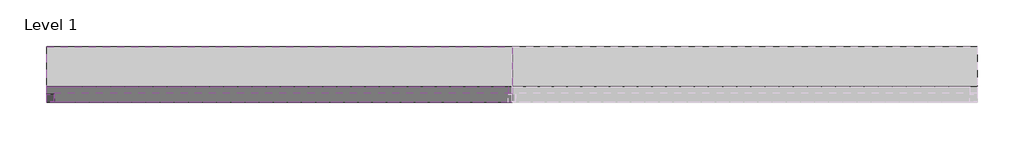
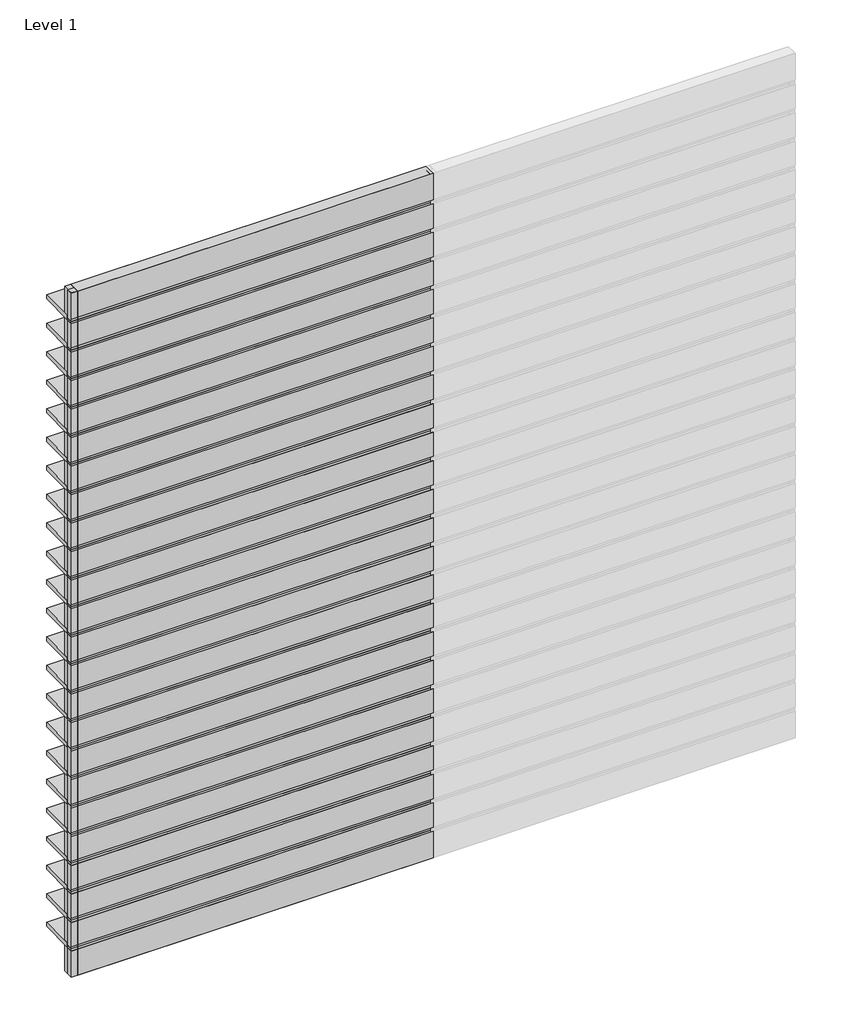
# One storey, part 1 of 2: 59 members, 48 plates.
"""IFC4 building model written with IfcOpenShell, lengths in millimetres."""

from ifc_helpers import new_model, si_unit, origin, place, context, project, spatial, transform, mapped, element, save
from components import rectangular_mullion_3524faa0, rectangular_mullion_eeaea343, empty_system_panel_empty_0ca92e57, empty_system_panel_empty_21c48a04, empty_system_panel_empty_839ed214

model = new_model("IFC4")

# Units and contexts
model_context = context("Model", 3, world=origin())
ifc_project = project(units=[si_unit("LENGTHUNIT", "METRE", prefix="MILLI")], contexts=[model_context])

# Site, building, storey
site = spatial("IfcSite", under=ifc_project)
building = spatial("IfcBuilding", under=site)
storey = spatial("IfcBuildingStorey", under=building, Name="Level 1", Elevation=0.0)

# Members
placement = place(None, origin())
rectangular_mullion_shape = rectangular_mullion_3524faa0(model_context)
element("IfcMember", 1, ObjectType="Rectangular Mullion : RSen_21_CWM_blade - cubic 300 - 0°_gen_duco projects", at=placement, inside=storey, context=model_context, shape_type="MappedRepresentation", body=[
    mapped(rectangular_mullion_shape, transform((3000.0, 3000.0, 250.0), x_axis=(0.0, 0.0, 1.0), y_axis=(0.0, 1.0, 0.0), z_axis=(-1.0, 0.0, 0.0))),
])
element("IfcMember", 2, ObjectType="Rectangular Mullion : RSen_21_CWM_blade - cubic 300 - 0°_gen_duco projects", at=placement, inside=storey, context=model_context, shape_type="MappedRepresentation", body=[
    mapped(rectangular_mullion_shape, transform((3000.0, 3000.0, 500.0), x_axis=(0.0, 0.0, 1.0), y_axis=(0.0, 1.0, 0.0), z_axis=(-1.0, 0.0, 0.0))),
])
element("IfcMember", 3, ObjectType="Rectangular Mullion : RSen_21_CWM_blade - cubic 300 - 0°_gen_duco projects", at=placement, inside=storey, context=model_context, shape_type="MappedRepresentation", body=[
    mapped(rectangular_mullion_shape, transform((3000.0, 3000.0, 750.0), x_axis=(0.0, 0.0, 1.0), y_axis=(0.0, 1.0, 0.0), z_axis=(-1.0, 0.0, 0.0))),
])
element("IfcMember", 4, ObjectType="Rectangular Mullion : RSen_21_CWM_blade - cubic 300 - 0°_gen_duco projects", at=placement, inside=storey, context=model_context, shape_type="MappedRepresentation", body=[
    mapped(rectangular_mullion_shape, transform((3000.0, 3000.0, 1000.0), x_axis=(0.0, 0.0, 1.0), y_axis=(0.0, 1.0, 0.0), z_axis=(-1.0, 0.0, 0.0))),
])
element("IfcMember", 5, ObjectType="Rectangular Mullion : RSen_21_CWM_blade - cubic 300 - 0°_gen_duco projects", at=placement, inside=storey, context=model_context, shape_type="MappedRepresentation", body=[
    mapped(rectangular_mullion_shape, transform((3000.0, 3000.0, 1250.0), x_axis=(0.0, 0.0, 1.0), y_axis=(0.0, 1.0, 0.0), z_axis=(-1.0, 0.0, 0.0))),
])
element("IfcMember", 6, ObjectType="Rectangular Mullion : RSen_21_CWM_blade - cubic 300 - 0°_gen_duco projects", at=placement, inside=storey, context=model_context, shape_type="MappedRepresentation", body=[
    mapped(rectangular_mullion_shape, transform((3000.0, 3000.0, 1500.0), x_axis=(0.0, 0.0, 1.0), y_axis=(0.0, 1.0, 0.0), z_axis=(-1.0, 0.0, 0.0))),
])
element("IfcMember", 7, ObjectType="Rectangular Mullion : RSen_21_CWM_blade - cubic 300 - 0°_gen_duco projects", at=placement, inside=storey, context=model_context, shape_type="MappedRepresentation", body=[
    mapped(rectangular_mullion_shape, transform((3000.0, 3000.0, 1750.0), x_axis=(0.0, 0.0, 1.0), y_axis=(0.0, 1.0, 0.0), z_axis=(-1.0, 0.0, 0.0))),
])
element("IfcMember", 8, ObjectType="Rectangular Mullion : RSen_21_CWM_blade - cubic 300 - 0°_gen_duco projects", at=placement, inside=storey, context=model_context, shape_type="MappedRepresentation", body=[
    mapped(rectangular_mullion_shape, transform((3000.0, 3000.0, 2000.0), x_axis=(0.0, 0.0, 1.0), y_axis=(0.0, 1.0, 0.0), z_axis=(-1.0, 0.0, 0.0))),
])
element("IfcMember", 9, ObjectType="Rectangular Mullion : RSen_21_CWM_blade - cubic 300 - 0°_gen_duco projects", at=placement, inside=storey, context=model_context, shape_type="MappedRepresentation", body=[
    mapped(rectangular_mullion_shape, transform((3000.0, 3000.0, 2250.0), x_axis=(0.0, 0.0, 1.0), y_axis=(0.0, 1.0, 0.0), z_axis=(-1.0, 0.0, 0.0))),
])
element("IfcMember", 10, ObjectType="Rectangular Mullion : RSen_21_CWM_blade - cubic 300 - 0°_gen_duco projects", at=placement, inside=storey, context=model_context, shape_type="MappedRepresentation", body=[
    mapped(rectangular_mullion_shape, transform((3000.0, 3000.0, 2500.0), x_axis=(0.0, 0.0, 1.0), y_axis=(0.0, 1.0, 0.0), z_axis=(-1.0, 0.0, 0.0))),
])
element("IfcMember", 11, ObjectType="Rectangular Mullion : RSen_21_CWM_blade - cubic 300 - 0°_gen_duco projects", at=placement, inside=storey, context=model_context, shape_type="MappedRepresentation", body=[
    mapped(rectangular_mullion_shape, transform((3000.0, 3000.0, 2750.0), x_axis=(0.0, 0.0, 1.0), y_axis=(0.0, 1.0, 0.0), z_axis=(-1.0, 0.0, 0.0))),
])
element("IfcMember", 12, ObjectType="Rectangular Mullion : RSen_21_CWM_blade - cubic 300 - 0°_gen_duco projects", at=placement, inside=storey, context=model_context, shape_type="MappedRepresentation", body=[
    mapped(rectangular_mullion_shape, transform((3000.0, 3000.0, 3000.0), x_axis=(0.0, 0.0, 1.0), y_axis=(0.0, 1.0, 0.0), z_axis=(-1.0, 0.0, 0.0))),
])
element("IfcMember", 13, ObjectType="Rectangular Mullion : RSen_21_CWM_blade - cubic 300 - 0°_gen_duco projects", at=placement, inside=storey, context=model_context, shape_type="MappedRepresentation", body=[
    mapped(rectangular_mullion_shape, transform((0.0, 3000.0, 250.0), x_axis=(0.0, 0.0, 1.0), y_axis=(0.0, 1.0, 0.0), z_axis=(-1.0, 0.0, 0.0))),
])
element("IfcMember", 14, ObjectType="Rectangular Mullion : RSen_21_CWM_blade - cubic 300 - 0°_gen_duco projects", at=placement, inside=storey, context=model_context, shape_type="MappedRepresentation", body=[
    mapped(rectangular_mullion_shape, transform((0.0, 3000.0, 500.0), x_axis=(0.0, 0.0, 1.0), y_axis=(0.0, 1.0, 0.0), z_axis=(-1.0, 0.0, 0.0))),
])
element("IfcMember", 15, ObjectType="Rectangular Mullion : RSen_21_CWM_blade - cubic 300 - 0°_gen_duco projects", at=placement, inside=storey, context=model_context, shape_type="MappedRepresentation", body=[
    mapped(rectangular_mullion_shape, transform((0.0, 3000.0, 750.0), x_axis=(0.0, 0.0, 1.0), y_axis=(0.0, 1.0, 0.0), z_axis=(-1.0, 0.0, 0.0))),
])
element("IfcMember", 16, ObjectType="Rectangular Mullion : RSen_21_CWM_blade - cubic 300 - 0°_gen_duco projects", at=placement, inside=storey, context=model_context, shape_type="MappedRepresentation", body=[
    mapped(rectangular_mullion_shape, transform((0.0, 3000.0, 1000.0), x_axis=(0.0, 0.0, 1.0), y_axis=(0.0, 1.0, 0.0), z_axis=(-1.0, 0.0, 0.0))),
])
element("IfcMember", 17, ObjectType="Rectangular Mullion : RSen_21_CWM_blade - cubic 300 - 0°_gen_duco projects", at=placement, inside=storey, context=model_context, shape_type="MappedRepresentation", body=[
    mapped(rectangular_mullion_shape, transform((0.0, 3000.0, 1250.0), x_axis=(0.0, 0.0, 1.0), y_axis=(0.0, 1.0, 0.0), z_axis=(-1.0, 0.0, 0.0))),
])
element("IfcMember", 18, ObjectType="Rectangular Mullion : RSen_21_CWM_blade - cubic 300 - 0°_gen_duco projects", at=placement, inside=storey, context=model_context, shape_type="MappedRepresentation", body=[
    mapped(rectangular_mullion_shape, transform((0.0, 3000.0, 1500.0), x_axis=(0.0, 0.0, 1.0), y_axis=(0.0, 1.0, 0.0), z_axis=(-1.0, 0.0, 0.0))),
])
element("IfcMember", 19, ObjectType="Rectangular Mullion : RSen_21_CWM_blade - cubic 300 - 0°_gen_duco projects", at=placement, inside=storey, context=model_context, shape_type="MappedRepresentation", body=[
    mapped(rectangular_mullion_shape, transform((0.0, 3000.0, 1750.0), x_axis=(0.0, 0.0, 1.0), y_axis=(0.0, 1.0, 0.0), z_axis=(-1.0, 0.0, 0.0))),
])
element("IfcMember", 20, ObjectType="Rectangular Mullion : RSen_21_CWM_blade - cubic 300 - 0°_gen_duco projects", at=placement, inside=storey, context=model_context, shape_type="MappedRepresentation", body=[
    mapped(rectangular_mullion_shape, transform((0.0, 3000.0, 2000.0), x_axis=(0.0, 0.0, 1.0), y_axis=(0.0, 1.0, 0.0), z_axis=(-1.0, 0.0, 0.0))),
])
element("IfcMember", 21, ObjectType="Rectangular Mullion : RSen_21_CWM_blade - cubic 300 - 0°_gen_duco projects", at=placement, inside=storey, context=model_context, shape_type="MappedRepresentation", body=[
    mapped(rectangular_mullion_shape, transform((0.0, 3000.0, 2250.0), x_axis=(0.0, 0.0, 1.0), y_axis=(0.0, 1.0, 0.0), z_axis=(-1.0, 0.0, 0.0))),
])
element("IfcMember", 22, ObjectType="Rectangular Mullion : RSen_21_CWM_blade - cubic 300 - 0°_gen_duco projects", at=placement, inside=storey, context=model_context, shape_type="MappedRepresentation", body=[
    mapped(rectangular_mullion_shape, transform((0.0, 3000.0, 2500.0), x_axis=(0.0, 0.0, 1.0), y_axis=(0.0, 1.0, 0.0), z_axis=(-1.0, 0.0, 0.0))),
])
element("IfcMember", 23, ObjectType="Rectangular Mullion : RSen_21_CWM_blade - cubic 300 - 0°_gen_duco projects", at=placement, inside=storey, context=model_context, shape_type="MappedRepresentation", body=[
    mapped(rectangular_mullion_shape, transform((0.0, 3000.0, 2750.0), x_axis=(0.0, 0.0, 1.0), y_axis=(0.0, 1.0, 0.0), z_axis=(-1.0, 0.0, 0.0))),
])
element("IfcMember", 24, ObjectType="Rectangular Mullion : RSen_21_CWM_blade - cubic 300 - 0°_gen_duco projects", at=placement, inside=storey, context=model_context, shape_type="MappedRepresentation", body=[
    mapped(rectangular_mullion_shape, transform((0.0, 3000.0, 3000.0), x_axis=(0.0, 0.0, 1.0), y_axis=(0.0, 1.0, 0.0), z_axis=(-1.0, 0.0, 0.0))),
])
element("IfcMember", 25, ObjectType="Rectangular Mullion : RSen_21_CWM_blade - cubic 300 - 0°_gen_duco projects", at=placement, inside=storey, context=model_context, shape_type="MappedRepresentation", body=[
    mapped(rectangular_mullion_shape, transform((0.0, 3000.0, 3250.0), x_axis=(0.0, 0.0, 1.0), y_axis=(0.0, 1.0, 0.0), z_axis=(-1.0, 0.0, 0.0))),
])
element("IfcMember", 26, ObjectType="Rectangular Mullion : RSen_21_CWM_blade - cubic 300 - 0°_gen_duco projects", at=placement, inside=storey, context=model_context, shape_type="MappedRepresentation", body=[
    mapped(rectangular_mullion_shape, transform((0.0, 3000.0, 3500.0), x_axis=(0.0, 0.0, 1.0), y_axis=(0.0, 1.0, 0.0), z_axis=(-1.0, 0.0, 0.0))),
])
element("IfcMember", 27, ObjectType="Rectangular Mullion : RSen_21_CWM_blade - cubic 300 - 0°_gen_duco projects", at=placement, inside=storey, context=model_context, shape_type="MappedRepresentation", body=[
    mapped(rectangular_mullion_shape, transform((0.0, 3000.0, 3750.0), x_axis=(0.0, 0.0, 1.0), y_axis=(0.0, 1.0, 0.0), z_axis=(-1.0, 0.0, 0.0))),
])
element("IfcMember", 28, ObjectType="Rectangular Mullion : RSen_21_CWM_blade - cubic 300 - 0°_gen_duco projects", at=placement, inside=storey, context=model_context, shape_type="MappedRepresentation", body=[
    mapped(rectangular_mullion_shape, transform((0.0, 3000.0, 4000.0), x_axis=(0.0, 0.0, 1.0), y_axis=(0.0, 1.0, 0.0), z_axis=(-1.0, 0.0, 0.0))),
])
element("IfcMember", 29, ObjectType="Rectangular Mullion : RSen_21_CWM_blade - cubic 300 - 0°_gen_duco projects", at=placement, inside=storey, context=model_context, shape_type="MappedRepresentation", body=[
    mapped(rectangular_mullion_shape, transform((0.0, 3000.0, 4250.0), x_axis=(0.0, 0.0, 1.0), y_axis=(0.0, 1.0, 0.0), z_axis=(-1.0, 0.0, 0.0))),
])
element("IfcMember", 30, ObjectType="Rectangular Mullion : RSen_21_CWM_blade - cubic 300 - 0°_gen_duco projects", at=placement, inside=storey, context=model_context, shape_type="MappedRepresentation", body=[
    mapped(rectangular_mullion_shape, transform((0.0, 3000.0, 4500.0), x_axis=(0.0, 0.0, 1.0), y_axis=(0.0, 1.0, 0.0), z_axis=(-1.0, 0.0, 0.0))),
])
element("IfcMember", 31, ObjectType="Rectangular Mullion : RSen_21_CWM_blade - cubic 300 - 0°_gen_duco projects", at=placement, inside=storey, context=model_context, shape_type="MappedRepresentation", body=[
    mapped(rectangular_mullion_shape, transform((0.0, 3000.0, 4750.0), x_axis=(0.0, 0.0, 1.0), y_axis=(0.0, 1.0, 0.0), z_axis=(-1.0, 0.0, 0.0))),
])
element("IfcMember", 32, ObjectType="Rectangular Mullion : RSen_21_CWM_blade - cubic 300 - 0°_gen_duco projects", at=placement, inside=storey, context=model_context, shape_type="MappedRepresentation", body=[
    mapped(rectangular_mullion_shape, transform((0.0, 3000.0, 5000.0), x_axis=(0.0, 0.0, 1.0), y_axis=(0.0, 1.0, 0.0), z_axis=(-1.0, 0.0, 0.0))),
])
element("IfcMember", 33, ObjectType="Rectangular Mullion : RSen_21_CWM_blade - cubic 300 - 0°_gen_duco projects", at=placement, inside=storey, context=model_context, shape_type="MappedRepresentation", body=[
    mapped(rectangular_mullion_shape, transform((0.0, 3000.0, 5250.0), x_axis=(0.0, 0.0, 1.0), y_axis=(0.0, 1.0, 0.0), z_axis=(-1.0, 0.0, 0.0))),
])
element("IfcMember", 34, ObjectType="Rectangular Mullion : RSen_21_CWM_blade - cubic 300 - 0°_gen_duco projects", at=placement, inside=storey, context=model_context, shape_type="MappedRepresentation", body=[
    mapped(rectangular_mullion_shape, transform((0.0, 3000.0, 5500.0), x_axis=(0.0, 0.0, 1.0), y_axis=(0.0, 1.0, 0.0), z_axis=(-1.0, 0.0, 0.0))),
])
element("IfcMember", 35, ObjectType="Rectangular Mullion : RSen_21_CWM_blade - cubic 300 - 0°_gen_duco projects", at=placement, inside=storey, context=model_context, shape_type="MappedRepresentation", body=[
    mapped(rectangular_mullion_shape, transform((0.0, 3000.0, 5750.0), x_axis=(0.0, 0.0, 1.0), y_axis=(0.0, 1.0, 0.0), z_axis=(-1.0, 0.0, 0.0))),
])
rectangular_mullion_2_shape = rectangular_mullion_eeaea343(model_context)
element("IfcMember", 36, ObjectType="Rectangular Mullion : RSen_21_CWM_support profile 50x50 - left_gen_duco projects", at=placement, inside=storey, context=model_context, shape_type="MappedRepresentation", body=[
    mapped(rectangular_mullion_2_shape, transform((0.0, 3000.0, 0.0), x_axis=(-1.0, 0.0, 0.0), y_axis=(0.0, 1.0, 0.0), z_axis=(0.0, 0.0, -1.0))),
])
element("IfcMember", 37, ObjectType="Rectangular Mullion : RSen_21_CWM_support profile 50x50 - left_gen_duco projects", at=placement, inside=storey, context=model_context, shape_type="MappedRepresentation", body=[
    mapped(rectangular_mullion_2_shape, transform((0.0, 3000.0, 250.0), x_axis=(-1.0, 0.0, 0.0), y_axis=(0.0, 1.0, 0.0), z_axis=(0.0, 0.0, -1.0))),
])
element("IfcMember", 38, ObjectType="Rectangular Mullion : RSen_21_CWM_support profile 50x50 - left_gen_duco projects", at=placement, inside=storey, context=model_context, shape_type="MappedRepresentation", body=[
    mapped(rectangular_mullion_2_shape, transform((0.0, 3000.0, 500.0), x_axis=(-1.0, 0.0, 0.0), y_axis=(0.0, 1.0, 0.0), z_axis=(0.0, 0.0, -1.0))),
])
element("IfcMember", 39, ObjectType="Rectangular Mullion : RSen_21_CWM_support profile 50x50 - left_gen_duco projects", at=placement, inside=storey, context=model_context, shape_type="MappedRepresentation", body=[
    mapped(rectangular_mullion_2_shape, transform((0.0, 3000.0, 750.0), x_axis=(-1.0, 0.0, 0.0), y_axis=(0.0, 1.0, 0.0), z_axis=(0.0, 0.0, -1.0))),
])
element("IfcMember", 40, ObjectType="Rectangular Mullion : RSen_21_CWM_support profile 50x50 - left_gen_duco projects", at=placement, inside=storey, context=model_context, shape_type="MappedRepresentation", body=[
    mapped(rectangular_mullion_2_shape, transform((0.0, 3000.0, 1000.0), x_axis=(-1.0, 0.0, 0.0), y_axis=(0.0, 1.0, 0.0), z_axis=(0.0, 0.0, -1.0))),
])
element("IfcMember", 41, ObjectType="Rectangular Mullion : RSen_21_CWM_support profile 50x50 - left_gen_duco projects", at=placement, inside=storey, context=model_context, shape_type="MappedRepresentation", body=[
    mapped(rectangular_mullion_2_shape, transform((0.0, 3000.0, 1250.0), x_axis=(-1.0, 0.0, 0.0), y_axis=(0.0, 1.0, 0.0), z_axis=(0.0, 0.0, -1.0))),
])
element("IfcMember", 42, ObjectType="Rectangular Mullion : RSen_21_CWM_support profile 50x50 - left_gen_duco projects", at=placement, inside=storey, context=model_context, shape_type="MappedRepresentation", body=[
    mapped(rectangular_mullion_2_shape, transform((0.0, 3000.0, 1500.0), x_axis=(-1.0, 0.0, 0.0), y_axis=(0.0, 1.0, 0.0), z_axis=(0.0, 0.0, -1.0))),
])
element("IfcMember", 43, ObjectType="Rectangular Mullion : RSen_21_CWM_support profile 50x50 - left_gen_duco projects", at=placement, inside=storey, context=model_context, shape_type="MappedRepresentation", body=[
    mapped(rectangular_mullion_2_shape, transform((0.0, 3000.0, 1750.0), x_axis=(-1.0, 0.0, 0.0), y_axis=(0.0, 1.0, 0.0), z_axis=(0.0, 0.0, -1.0))),
])
element("IfcMember", 44, ObjectType="Rectangular Mullion : RSen_21_CWM_support profile 50x50 - left_gen_duco projects", at=placement, inside=storey, context=model_context, shape_type="MappedRepresentation", body=[
    mapped(rectangular_mullion_2_shape, transform((0.0, 3000.0, 2000.0), x_axis=(-1.0, 0.0, 0.0), y_axis=(0.0, 1.0, 0.0), z_axis=(0.0, 0.0, -1.0))),
])
element("IfcMember", 45, ObjectType="Rectangular Mullion : RSen_21_CWM_support profile 50x50 - left_gen_duco projects", at=placement, inside=storey, context=model_context, shape_type="MappedRepresentation", body=[
    mapped(rectangular_mullion_2_shape, transform((0.0, 3000.0, 2250.0), x_axis=(-1.0, 0.0, 0.0), y_axis=(0.0, 1.0, 0.0), z_axis=(0.0, 0.0, -1.0))),
])
element("IfcMember", 46, ObjectType="Rectangular Mullion : RSen_21_CWM_support profile 50x50 - left_gen_duco projects", at=placement, inside=storey, context=model_context, shape_type="MappedRepresentation", body=[
    mapped(rectangular_mullion_2_shape, transform((0.0, 3000.0, 2500.0), x_axis=(-1.0, 0.0, 0.0), y_axis=(0.0, 1.0, 0.0), z_axis=(0.0, 0.0, -1.0))),
])
element("IfcMember", 47, ObjectType="Rectangular Mullion : RSen_21_CWM_support profile 50x50 - left_gen_duco projects", at=placement, inside=storey, context=model_context, shape_type="MappedRepresentation", body=[
    mapped(rectangular_mullion_2_shape, transform((0.0, 3000.0, 2750.0), x_axis=(-1.0, 0.0, 0.0), y_axis=(0.0, 1.0, 0.0), z_axis=(0.0, 0.0, -1.0))),
])
element("IfcMember", 48, ObjectType="Rectangular Mullion : RSen_21_CWM_support profile 50x50 - left_gen_duco projects", at=placement, inside=storey, context=model_context, shape_type="MappedRepresentation", body=[
    mapped(rectangular_mullion_2_shape, transform((0.0, 3000.0, 3000.0), x_axis=(-1.0, 0.0, 0.0), y_axis=(0.0, 1.0, 0.0), z_axis=(0.0, 0.0, -1.0))),
])
element("IfcMember", 49, ObjectType="Rectangular Mullion : RSen_21_CWM_support profile 50x50 - left_gen_duco projects", at=placement, inside=storey, context=model_context, shape_type="MappedRepresentation", body=[
    mapped(rectangular_mullion_2_shape, transform((0.0, 3000.0, 3250.0), x_axis=(-1.0, 0.0, 0.0), y_axis=(0.0, 1.0, 0.0), z_axis=(0.0, 0.0, -1.0))),
])
element("IfcMember", 50, ObjectType="Rectangular Mullion : RSen_21_CWM_support profile 50x50 - left_gen_duco projects", at=placement, inside=storey, context=model_context, shape_type="MappedRepresentation", body=[
    mapped(rectangular_mullion_2_shape, transform((0.0, 3000.0, 3500.0), x_axis=(-1.0, 0.0, 0.0), y_axis=(0.0, 1.0, 0.0), z_axis=(0.0, 0.0, -1.0))),
])
element("IfcMember", 51, ObjectType="Rectangular Mullion : RSen_21_CWM_support profile 50x50 - left_gen_duco projects", at=placement, inside=storey, context=model_context, shape_type="MappedRepresentation", body=[
    mapped(rectangular_mullion_2_shape, transform((0.0, 3000.0, 3750.0), x_axis=(-1.0, 0.0, 0.0), y_axis=(0.0, 1.0, 0.0), z_axis=(0.0, 0.0, -1.0))),
])
element("IfcMember", 52, ObjectType="Rectangular Mullion : RSen_21_CWM_support profile 50x50 - left_gen_duco projects", at=placement, inside=storey, context=model_context, shape_type="MappedRepresentation", body=[
    mapped(rectangular_mullion_2_shape, transform((0.0, 3000.0, 4000.0), x_axis=(-1.0, 0.0, 0.0), y_axis=(0.0, 1.0, 0.0), z_axis=(0.0, 0.0, -1.0))),
])
element("IfcMember", 53, ObjectType="Rectangular Mullion : RSen_21_CWM_support profile 50x50 - left_gen_duco projects", at=placement, inside=storey, context=model_context, shape_type="MappedRepresentation", body=[
    mapped(rectangular_mullion_2_shape, transform((0.0, 3000.0, 4250.0), x_axis=(-1.0, 0.0, 0.0), y_axis=(0.0, 1.0, 0.0), z_axis=(0.0, 0.0, -1.0))),
])
element("IfcMember", 54, ObjectType="Rectangular Mullion : RSen_21_CWM_support profile 50x50 - left_gen_duco projects", at=placement, inside=storey, context=model_context, shape_type="MappedRepresentation", body=[
    mapped(rectangular_mullion_2_shape, transform((0.0, 3000.0, 4500.0), x_axis=(-1.0, 0.0, 0.0), y_axis=(0.0, 1.0, 0.0), z_axis=(0.0, 0.0, -1.0))),
])
element("IfcMember", 55, ObjectType="Rectangular Mullion : RSen_21_CWM_support profile 50x50 - left_gen_duco projects", at=placement, inside=storey, context=model_context, shape_type="MappedRepresentation", body=[
    mapped(rectangular_mullion_2_shape, transform((0.0, 3000.0, 4750.0), x_axis=(-1.0, 0.0, 0.0), y_axis=(0.0, 1.0, 0.0), z_axis=(0.0, 0.0, -1.0))),
])
element("IfcMember", 56, ObjectType="Rectangular Mullion : RSen_21_CWM_support profile 50x50 - left_gen_duco projects", at=placement, inside=storey, context=model_context, shape_type="MappedRepresentation", body=[
    mapped(rectangular_mullion_2_shape, transform((0.0, 3000.0, 5000.0), x_axis=(-1.0, 0.0, 0.0), y_axis=(0.0, 1.0, 0.0), z_axis=(0.0, 0.0, -1.0))),
])
element("IfcMember", 57, ObjectType="Rectangular Mullion : RSen_21_CWM_support profile 50x50 - left_gen_duco projects", at=placement, inside=storey, context=model_context, shape_type="MappedRepresentation", body=[
    mapped(rectangular_mullion_2_shape, transform((0.0, 3000.0, 5250.0), x_axis=(-1.0, 0.0, 0.0), y_axis=(0.0, 1.0, 0.0), z_axis=(0.0, 0.0, -1.0))),
])
element("IfcMember", 58, ObjectType="Rectangular Mullion : RSen_21_CWM_support profile 50x50 - left_gen_duco projects", at=placement, inside=storey, context=model_context, shape_type="MappedRepresentation", body=[
    mapped(rectangular_mullion_2_shape, transform((0.0, 3000.0, 5500.0), x_axis=(-1.0, 0.0, 0.0), y_axis=(0.0, 1.0, 0.0), z_axis=(0.0, 0.0, -1.0))),
])
element("IfcMember", 59, ObjectType="Rectangular Mullion : RSen_21_CWM_support profile 50x50 - left_gen_duco projects", at=placement, inside=storey, context=model_context, shape_type="MappedRepresentation", body=[
    mapped(rectangular_mullion_2_shape, transform((0.0, 3000.0, 5750.0), x_axis=(-1.0, 0.0, 0.0), y_axis=(0.0, 1.0, 0.0), z_axis=(0.0, 0.0, -1.0))),
])

# Plates
empty_system_panel_empty_shape = empty_system_panel_empty_0ca92e57(model_context)
element("IfcPlate", 60, ObjectType="Empty System Panel : Empty", at=placement, inside=storey, context=model_context, shape_type="MappedRepresentation", body=[
    mapped(empty_system_panel_empty_shape, transform((1500.0, 3000.0, 0.0), x_axis=(-1.0, 0.0, 0.0), y_axis=(0.0, -1.0, 0.0), z_axis=(0.0, 0.0, 1.0))),
])
element("IfcPlate", 61, ObjectType="Empty System Panel : Empty", at=placement, inside=storey, context=model_context, shape_type="MappedRepresentation", body=[
    mapped(empty_system_panel_empty_shape, transform((1500.0, 3000.0, 5768.5), x_axis=(-1.0, 0.0, 0.0), y_axis=(0.0, -1.0, 0.0), z_axis=(0.0, 0.0, 1.0))),
])
empty_system_panel_empty_2_shape = empty_system_panel_empty_21c48a04(model_context)
element("IfcPlate", 62, ObjectType="Empty System Panel : Empty", at=placement, inside=storey, context=model_context, shape_type="MappedRepresentation", body=[
    mapped(empty_system_panel_empty_2_shape, transform((1500.0, 3000.0, 268.5), x_axis=(-1.0, 0.0, 0.0), y_axis=(0.0, -1.0, 0.0), z_axis=(0.0, 0.0, 1.0))),
])
element("IfcPlate", 63, ObjectType="Empty System Panel : Empty", at=placement, inside=storey, context=model_context, shape_type="MappedRepresentation", body=[
    mapped(empty_system_panel_empty_2_shape, transform((1500.0, 3000.0, 518.5), x_axis=(-1.0, 0.0, 0.0), y_axis=(0.0, -1.0, 0.0), z_axis=(0.0, 0.0, 1.0))),
])
element("IfcPlate", 64, ObjectType="Empty System Panel : Empty", at=placement, inside=storey, context=model_context, shape_type="MappedRepresentation", body=[
    mapped(empty_system_panel_empty_2_shape, transform((1500.0, 3000.0, 768.5), x_axis=(-1.0, 0.0, 0.0), y_axis=(0.0, -1.0, 0.0), z_axis=(0.0, 0.0, 1.0))),
])
element("IfcPlate", 65, ObjectType="Empty System Panel : Empty", at=placement, inside=storey, context=model_context, shape_type="MappedRepresentation", body=[
    mapped(empty_system_panel_empty_2_shape, transform((1500.0, 3000.0, 1018.5), x_axis=(-1.0, 0.0, 0.0), y_axis=(0.0, -1.0, 0.0), z_axis=(0.0, 0.0, 1.0))),
])
element("IfcPlate", 66, ObjectType="Empty System Panel : Empty", at=placement, inside=storey, context=model_context, shape_type="MappedRepresentation", body=[
    mapped(empty_system_panel_empty_2_shape, transform((1500.0, 3000.0, 1268.5), x_axis=(-1.0, 0.0, 0.0), y_axis=(0.0, -1.0, 0.0), z_axis=(0.0, 0.0, 1.0))),
])
element("IfcPlate", 67, ObjectType="Empty System Panel : Empty", at=placement, inside=storey, context=model_context, shape_type="MappedRepresentation", body=[
    mapped(empty_system_panel_empty_2_shape, transform((1500.0, 3000.0, 1518.5), x_axis=(-1.0, 0.0, 0.0), y_axis=(0.0, -1.0, 0.0), z_axis=(0.0, 0.0, 1.0))),
])
element("IfcPlate", 68, ObjectType="Empty System Panel : Empty", at=placement, inside=storey, context=model_context, shape_type="MappedRepresentation", body=[
    mapped(empty_system_panel_empty_2_shape, transform((1500.0, 3000.0, 1768.5), x_axis=(-1.0, 0.0, 0.0), y_axis=(0.0, -1.0, 0.0), z_axis=(0.0, 0.0, 1.0))),
])
element("IfcPlate", 69, ObjectType="Empty System Panel : Empty", at=placement, inside=storey, context=model_context, shape_type="MappedRepresentation", body=[
    mapped(empty_system_panel_empty_2_shape, transform((1500.0, 3000.0, 2018.5), x_axis=(-1.0, 0.0, 0.0), y_axis=(0.0, -1.0, 0.0), z_axis=(0.0, 0.0, 1.0))),
])
element("IfcPlate", 70, ObjectType="Empty System Panel : Empty", at=placement, inside=storey, context=model_context, shape_type="MappedRepresentation", body=[
    mapped(empty_system_panel_empty_2_shape, transform((1500.0, 3000.0, 2268.5), x_axis=(-1.0, 0.0, 0.0), y_axis=(0.0, -1.0, 0.0), z_axis=(0.0, 0.0, 1.0))),
])
element("IfcPlate", 71, ObjectType="Empty System Panel : Empty", at=placement, inside=storey, context=model_context, shape_type="MappedRepresentation", body=[
    mapped(empty_system_panel_empty_2_shape, transform((1500.0, 3000.0, 2518.5), x_axis=(-1.0, 0.0, 0.0), y_axis=(0.0, -1.0, 0.0), z_axis=(0.0, 0.0, 1.0))),
])
element("IfcPlate", 72, ObjectType="Empty System Panel : Empty", at=placement, inside=storey, context=model_context, shape_type="MappedRepresentation", body=[
    mapped(empty_system_panel_empty_2_shape, transform((1500.0, 3000.0, 2768.5), x_axis=(-1.0, 0.0, 0.0), y_axis=(0.0, -1.0, 0.0), z_axis=(0.0, 0.0, 1.0))),
])
element("IfcPlate", 73, ObjectType="Empty System Panel : Empty", at=placement, inside=storey, context=model_context, shape_type="MappedRepresentation", body=[
    mapped(empty_system_panel_empty_2_shape, transform((1500.0, 3000.0, 3018.5), x_axis=(-1.0, 0.0, 0.0), y_axis=(0.0, -1.0, 0.0), z_axis=(0.0, 0.0, 1.0))),
])
element("IfcPlate", 74, ObjectType="Empty System Panel : Empty", at=placement, inside=storey, context=model_context, shape_type="MappedRepresentation", body=[
    mapped(empty_system_panel_empty_2_shape, transform((1500.0, 3000.0, 3268.5), x_axis=(-1.0, 0.0, 0.0), y_axis=(0.0, -1.0, 0.0), z_axis=(0.0, 0.0, 1.0))),
])
element("IfcPlate", 75, ObjectType="Empty System Panel : Empty", at=placement, inside=storey, context=model_context, shape_type="MappedRepresentation", body=[
    mapped(empty_system_panel_empty_2_shape, transform((1500.0, 3000.0, 3518.5), x_axis=(-1.0, 0.0, 0.0), y_axis=(0.0, -1.0, 0.0), z_axis=(0.0, 0.0, 1.0))),
])
element("IfcPlate", 76, ObjectType="Empty System Panel : Empty", at=placement, inside=storey, context=model_context, shape_type="MappedRepresentation", body=[
    mapped(empty_system_panel_empty_2_shape, transform((1500.0, 3000.0, 3768.5), x_axis=(-1.0, 0.0, 0.0), y_axis=(0.0, -1.0, 0.0), z_axis=(0.0, 0.0, 1.0))),
])
element("IfcPlate", 77, ObjectType="Empty System Panel : Empty", at=placement, inside=storey, context=model_context, shape_type="MappedRepresentation", body=[
    mapped(empty_system_panel_empty_2_shape, transform((1500.0, 3000.0, 4018.5), x_axis=(-1.0, 0.0, 0.0), y_axis=(0.0, -1.0, 0.0), z_axis=(0.0, 0.0, 1.0))),
])
element("IfcPlate", 78, ObjectType="Empty System Panel : Empty", at=placement, inside=storey, context=model_context, shape_type="MappedRepresentation", body=[
    mapped(empty_system_panel_empty_2_shape, transform((1500.0, 3000.0, 4268.5), x_axis=(-1.0, 0.0, 0.0), y_axis=(0.0, -1.0, 0.0), z_axis=(0.0, 0.0, 1.0))),
])
element("IfcPlate", 79, ObjectType="Empty System Panel : Empty", at=placement, inside=storey, context=model_context, shape_type="MappedRepresentation", body=[
    mapped(empty_system_panel_empty_2_shape, transform((1500.0, 3000.0, 4518.5), x_axis=(-1.0, 0.0, 0.0), y_axis=(0.0, -1.0, 0.0), z_axis=(0.0, 0.0, 1.0))),
])
element("IfcPlate", 80, ObjectType="Empty System Panel : Empty", at=placement, inside=storey, context=model_context, shape_type="MappedRepresentation", body=[
    mapped(empty_system_panel_empty_2_shape, transform((1500.0, 3000.0, 4768.5), x_axis=(-1.0, 0.0, 0.0), y_axis=(0.0, -1.0, 0.0), z_axis=(0.0, 0.0, 1.0))),
])
element("IfcPlate", 81, ObjectType="Empty System Panel : Empty", at=placement, inside=storey, context=model_context, shape_type="MappedRepresentation", body=[
    mapped(empty_system_panel_empty_2_shape, transform((1500.0, 3000.0, 5018.5), x_axis=(-1.0, 0.0, 0.0), y_axis=(0.0, -1.0, 0.0), z_axis=(0.0, 0.0, 1.0))),
])
element("IfcPlate", 82, ObjectType="Empty System Panel : Empty", at=placement, inside=storey, context=model_context, shape_type="MappedRepresentation", body=[
    mapped(empty_system_panel_empty_2_shape, transform((1500.0, 3000.0, 5268.5), x_axis=(-1.0, 0.0, 0.0), y_axis=(0.0, -1.0, 0.0), z_axis=(0.0, 0.0, 1.0))),
])
element("IfcPlate", 83, ObjectType="Empty System Panel : Empty", at=placement, inside=storey, context=model_context, shape_type="MappedRepresentation", body=[
    mapped(empty_system_panel_empty_2_shape, transform((1500.0, 3000.0, 5518.5), x_axis=(-1.0, 0.0, 0.0), y_axis=(0.0, -1.0, 0.0), z_axis=(0.0, 0.0, 1.0))),
])
empty_system_panel_empty_3_shape = empty_system_panel_empty_839ed214(model_context)
element("IfcPlate", 84, ObjectType="Empty System Panel : Empty", at=placement, inside=storey, context=model_context, shape_type="MappedRepresentation", body=[
    mapped(empty_system_panel_empty_3_shape, transform((1512.5, 3000.0, 0.0), x_axis=(-1.0, 0.0, 0.0), y_axis=(0.0, -1.0, 0.0), z_axis=(0.0, 0.0, 1.0))),
])
element("IfcPlate", 85, ObjectType="Empty System Panel : Empty", at=placement, inside=storey, context=model_context, shape_type="MappedRepresentation", body=[
    mapped(empty_system_panel_empty_3_shape, transform((1512.5, 3000.0, 250.0), x_axis=(-1.0, 0.0, 0.0), y_axis=(0.0, -1.0, 0.0), z_axis=(0.0, 0.0, 1.0))),
])
element("IfcPlate", 86, ObjectType="Empty System Panel : Empty", at=placement, inside=storey, context=model_context, shape_type="MappedRepresentation", body=[
    mapped(empty_system_panel_empty_3_shape, transform((1512.5, 3000.0, 500.0), x_axis=(-1.0, 0.0, 0.0), y_axis=(0.0, -1.0, 0.0), z_axis=(0.0, 0.0, 1.0))),
])
element("IfcPlate", 87, ObjectType="Empty System Panel : Empty", at=placement, inside=storey, context=model_context, shape_type="MappedRepresentation", body=[
    mapped(empty_system_panel_empty_3_shape, transform((1512.5, 3000.0, 750.0), x_axis=(-1.0, 0.0, 0.0), y_axis=(0.0, -1.0, 0.0), z_axis=(0.0, 0.0, 1.0))),
])
element("IfcPlate", 88, ObjectType="Empty System Panel : Empty", at=placement, inside=storey, context=model_context, shape_type="MappedRepresentation", body=[
    mapped(empty_system_panel_empty_3_shape, transform((1512.5, 3000.0, 1000.0), x_axis=(-1.0, 0.0, 0.0), y_axis=(0.0, -1.0, 0.0), z_axis=(0.0, 0.0, 1.0))),
])
element("IfcPlate", 89, ObjectType="Empty System Panel : Empty", at=placement, inside=storey, context=model_context, shape_type="MappedRepresentation", body=[
    mapped(empty_system_panel_empty_3_shape, transform((1512.5, 3000.0, 1250.0), x_axis=(-1.0, 0.0, 0.0), y_axis=(0.0, -1.0, 0.0), z_axis=(0.0, 0.0, 1.0))),
])
element("IfcPlate", 90, ObjectType="Empty System Panel : Empty", at=placement, inside=storey, context=model_context, shape_type="MappedRepresentation", body=[
    mapped(empty_system_panel_empty_3_shape, transform((1512.5, 3000.0, 1500.0), x_axis=(-1.0, 0.0, 0.0), y_axis=(0.0, -1.0, 0.0), z_axis=(0.0, 0.0, 1.0))),
])
element("IfcPlate", 91, ObjectType="Empty System Panel : Empty", at=placement, inside=storey, context=model_context, shape_type="MappedRepresentation", body=[
    mapped(empty_system_panel_empty_3_shape, transform((1512.5, 3000.0, 1750.0), x_axis=(-1.0, 0.0, 0.0), y_axis=(0.0, -1.0, 0.0), z_axis=(0.0, 0.0, 1.0))),
])
element("IfcPlate", 92, ObjectType="Empty System Panel : Empty", at=placement, inside=storey, context=model_context, shape_type="MappedRepresentation", body=[
    mapped(empty_system_panel_empty_3_shape, transform((1512.5, 3000.0, 2000.0), x_axis=(-1.0, 0.0, 0.0), y_axis=(0.0, -1.0, 0.0), z_axis=(0.0, 0.0, 1.0))),
])
element("IfcPlate", 93, ObjectType="Empty System Panel : Empty", at=placement, inside=storey, context=model_context, shape_type="MappedRepresentation", body=[
    mapped(empty_system_panel_empty_3_shape, transform((1512.5, 3000.0, 2250.0), x_axis=(-1.0, 0.0, 0.0), y_axis=(0.0, -1.0, 0.0), z_axis=(0.0, 0.0, 1.0))),
])
element("IfcPlate", 94, ObjectType="Empty System Panel : Empty", at=placement, inside=storey, context=model_context, shape_type="MappedRepresentation", body=[
    mapped(empty_system_panel_empty_3_shape, transform((1512.5, 3000.0, 2500.0), x_axis=(-1.0, 0.0, 0.0), y_axis=(0.0, -1.0, 0.0), z_axis=(0.0, 0.0, 1.0))),
])
element("IfcPlate", 95, ObjectType="Empty System Panel : Empty", at=placement, inside=storey, context=model_context, shape_type="MappedRepresentation", body=[
    mapped(empty_system_panel_empty_3_shape, transform((1512.5, 3000.0, 2750.0), x_axis=(-1.0, 0.0, 0.0), y_axis=(0.0, -1.0, 0.0), z_axis=(0.0, 0.0, 1.0))),
])
element("IfcPlate", 96, ObjectType="Empty System Panel : Empty", at=placement, inside=storey, context=model_context, shape_type="MappedRepresentation", body=[
    mapped(empty_system_panel_empty_3_shape, transform((1512.5, 3000.0, 3000.0), x_axis=(-1.0, 0.0, 0.0), y_axis=(0.0, -1.0, 0.0), z_axis=(0.0, 0.0, 1.0))),
])
element("IfcPlate", 97, ObjectType="Empty System Panel : Empty", at=placement, inside=storey, context=model_context, shape_type="MappedRepresentation", body=[
    mapped(empty_system_panel_empty_3_shape, transform((1512.5, 3000.0, 3250.0), x_axis=(-1.0, 0.0, 0.0), y_axis=(0.0, -1.0, 0.0), z_axis=(0.0, 0.0, 1.0))),
])
element("IfcPlate", 98, ObjectType="Empty System Panel : Empty", at=placement, inside=storey, context=model_context, shape_type="MappedRepresentation", body=[
    mapped(empty_system_panel_empty_3_shape, transform((1512.5, 3000.0, 3500.0), x_axis=(-1.0, 0.0, 0.0), y_axis=(0.0, -1.0, 0.0), z_axis=(0.0, 0.0, 1.0))),
])
element("IfcPlate", 99, ObjectType="Empty System Panel : Empty", at=placement, inside=storey, context=model_context, shape_type="MappedRepresentation", body=[
    mapped(empty_system_panel_empty_3_shape, transform((1512.5, 3000.0, 3750.0), x_axis=(-1.0, 0.0, 0.0), y_axis=(0.0, -1.0, 0.0), z_axis=(0.0, 0.0, 1.0))),
])
element("IfcPlate", 100, ObjectType="Empty System Panel : Empty", at=placement, inside=storey, context=model_context, shape_type="MappedRepresentation", body=[
    mapped(empty_system_panel_empty_3_shape, transform((1512.5, 3000.0, 4000.0), x_axis=(-1.0, 0.0, 0.0), y_axis=(0.0, -1.0, 0.0), z_axis=(0.0, 0.0, 1.0))),
])
element("IfcPlate", 101, ObjectType="Empty System Panel : Empty", at=placement, inside=storey, context=model_context, shape_type="MappedRepresentation", body=[
    mapped(empty_system_panel_empty_3_shape, transform((1512.5, 3000.0, 4250.0), x_axis=(-1.0, 0.0, 0.0), y_axis=(0.0, -1.0, 0.0), z_axis=(0.0, 0.0, 1.0))),
])
element("IfcPlate", 102, ObjectType="Empty System Panel : Empty", at=placement, inside=storey, context=model_context, shape_type="MappedRepresentation", body=[
    mapped(empty_system_panel_empty_3_shape, transform((1512.5, 3000.0, 4500.0), x_axis=(-1.0, 0.0, 0.0), y_axis=(0.0, -1.0, 0.0), z_axis=(0.0, 0.0, 1.0))),
])
element("IfcPlate", 103, ObjectType="Empty System Panel : Empty", at=placement, inside=storey, context=model_context, shape_type="MappedRepresentation", body=[
    mapped(empty_system_panel_empty_3_shape, transform((1512.5, 3000.0, 4750.0), x_axis=(-1.0, 0.0, 0.0), y_axis=(0.0, -1.0, 0.0), z_axis=(0.0, 0.0, 1.0))),
])
element("IfcPlate", 104, ObjectType="Empty System Panel : Empty", at=placement, inside=storey, context=model_context, shape_type="MappedRepresentation", body=[
    mapped(empty_system_panel_empty_3_shape, transform((1512.5, 3000.0, 5000.0), x_axis=(-1.0, 0.0, 0.0), y_axis=(0.0, -1.0, 0.0), z_axis=(0.0, 0.0, 1.0))),
])
element("IfcPlate", 105, ObjectType="Empty System Panel : Empty", at=placement, inside=storey, context=model_context, shape_type="MappedRepresentation", body=[
    mapped(empty_system_panel_empty_3_shape, transform((1512.5, 3000.0, 5250.0), x_axis=(-1.0, 0.0, 0.0), y_axis=(0.0, -1.0, 0.0), z_axis=(0.0, 0.0, 1.0))),
])
element("IfcPlate", 106, ObjectType="Empty System Panel : Empty", at=placement, inside=storey, context=model_context, shape_type="MappedRepresentation", body=[
    mapped(empty_system_panel_empty_3_shape, transform((1512.5, 3000.0, 5500.0), x_axis=(-1.0, 0.0, 0.0), y_axis=(0.0, -1.0, 0.0), z_axis=(0.0, 0.0, 1.0))),
])
element("IfcPlate", 107, ObjectType="Empty System Panel : Empty", at=placement, inside=storey, context=model_context, shape_type="MappedRepresentation", body=[
    mapped(empty_system_panel_empty_3_shape, transform((1512.5, 3000.0, 5750.0), x_axis=(-1.0, 0.0, 0.0), y_axis=(0.0, -1.0, 0.0), z_axis=(0.0, 0.0, 1.0))),
])

save(model, "model.ifc")
